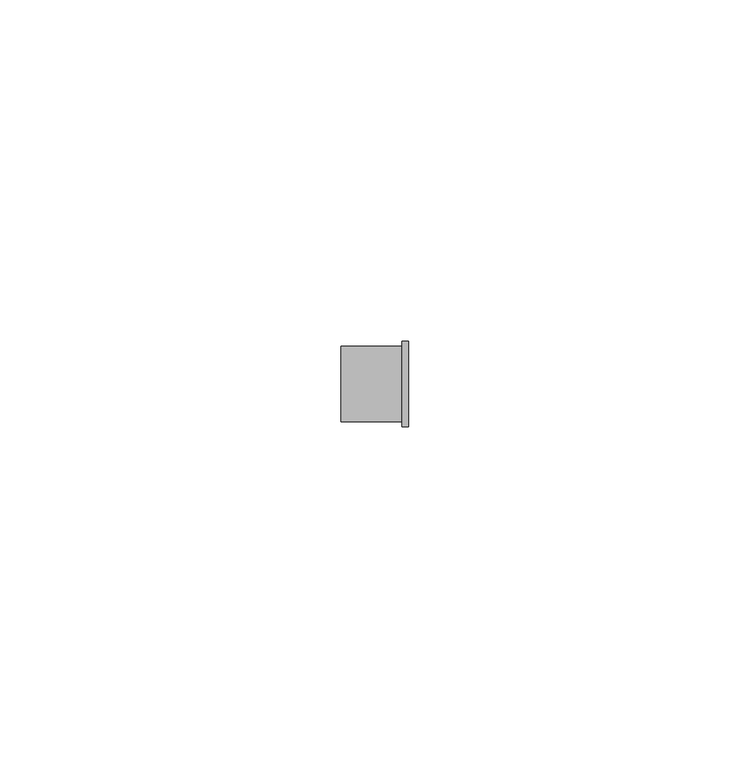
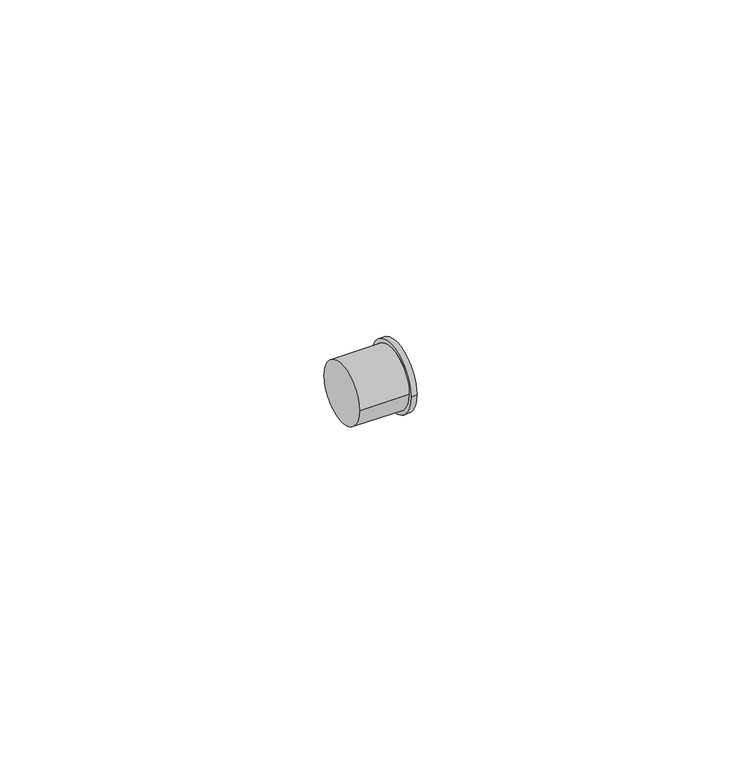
"""IFC4 building model written with IfcOpenShell, lengths in millimetres: pipe fitting geometry, Bucha de redução reta - Soldada - CU : Padrão."""

from ifc_helpers import new_model, si_unit, frame, origin, place, context, project, spatial, circle_curve, source, transform, mapped, element, save
from ifc_brep_helpers import plane_surface, cylinder_surface, advanced_brep


def pipe_fitting_90384c60(model_context):
    return source(origin(), model_context, "Body", "AdvancedBrep", [
        advanced_brep(
        [(0.0, -5.5, 0.0), (0.0, 5.5, 0.0), (8.9, -5.5, 0.0), (8.9, 5.5, 0.0), (9.9, -6.25, 0.0), (9.9, 6.25, 0.0), (8.9, 6.25, 0.0), (8.9, -6.25, 0.0)],
        [
            (0, 1, circle_curve(frame((0.0, 0.0, 0.0), z_axis=(-1.0, 0.0, 0.0), x_axis=(0.0, 1.0, 0.0)), 5.5)),
            (1, 0, circle_curve(frame((0.0, 0.0, 0.0), z_axis=(-1.0, 0.0, 0.0), x_axis=(0.0, 1.0, 0.0)), 5.5)),
            (0, 2),
            (2, 3, circle_curve(frame((8.9, 0.0, 0.0), z_axis=(-1.0, 0.0, 0.0), x_axis=(0.0, 1.0, 0.0)), 5.5)),
            (3, 1),
            (3, 2, circle_curve(frame((8.9, 0.0, 0.0), z_axis=(-1.0, 0.0, 0.0), x_axis=(0.0, 1.0, 0.0)), 5.5)),
            (4, 5, circle_curve(frame((9.9, 0.0, 0.0), z_axis=(1.0, 0.0, 0.0), x_axis=(0.0, 1.0, 0.0)), 6.25)),
            (5, 4, circle_curve(frame((9.9, 0.0, 0.0), z_axis=(1.0, 0.0, 0.0), x_axis=(0.0, 1.0, 0.0)), 6.25)),
            (6, 7, circle_curve(frame((8.9, 0.0, 0.0), z_axis=(1.0, 0.0, 0.0), x_axis=(0.0, 1.0, 0.0)), 6.25)),
            (7, 4),
            (5, 6),
            (7, 6, circle_curve(frame((8.9, 0.0, 0.0), z_axis=(1.0, 0.0, 0.0), x_axis=(0.0, 1.0, 0.0)), 6.25)),
        ],
        [
            plane_surface(frame((0.0, 0.0, 0.0), z_axis=(-1.0, 0.0, 0.0), x_axis=(0.0, 0.0, 1.0))),
            cylinder_surface(frame((0.0, 0.0, 0.0), z_axis=(-1.0, 0.0, 0.0), x_axis=(0.0, 1.0, 0.0)), 5.5),
            plane_surface(frame((9.9, 0.0, 0.0), z_axis=(1.0, 0.0, 0.0), x_axis=(0.0, 0.0, 1.0))),
            cylinder_surface(frame((8.9, 0.0, 0.0), z_axis=(-1.0, 0.0, 0.0), x_axis=(0.0, 1.0, 0.0)), 6.25),
            plane_surface(frame((8.9, 0.0, 0.0), z_axis=(-1.0, 0.0, 0.0), x_axis=(0.0, 0.0, 1.0))),
        ],
        [
            (0, [[1, 2]]),
            (1, [[-1, 3, 4, 5]]),
            (1, [[-2, -5, 6, -3]]),
            (2, [[7, 8]]),
            (3, [[9, 10, -8, 11]]),
            (3, [[12, -11, -7, -10]]),
            (4, [[-9, -12], [-4, -6]]),
        ],
    ),
    ])


if __name__ == "__main__":
    model = new_model("IFC4")
    model_context = context("Model", 3, world=origin())
    ifc_project = project(units=[si_unit("LENGTHUNIT", "METRE", prefix="MILLI")], contexts=[model_context])
    site = spatial("IfcSite", under=ifc_project)
    building = spatial("IfcBuilding", under=site)
    placement = place(None, origin())
    pipe_fitting_shape = pipe_fitting_90384c60(model_context)
    element("IfcPipeFitting", 1, ObjectType="Bucha de redução reta - Soldada - CU : Padrão", at=placement, inside=building, context=model_context, shape_type="MappedRepresentation", body=[
        mapped(pipe_fitting_shape, transform((0.0, 0.0, 0.0), x_axis=(1.0, 0.0, 0.0), y_axis=(0.0, 1.0, 0.0), z_axis=(0.0, 0.0, 1.0))),
    ])
    save(model, "model.ifc")
